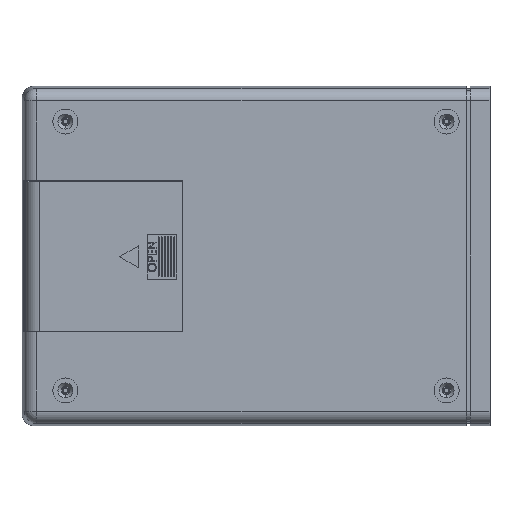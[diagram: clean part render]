
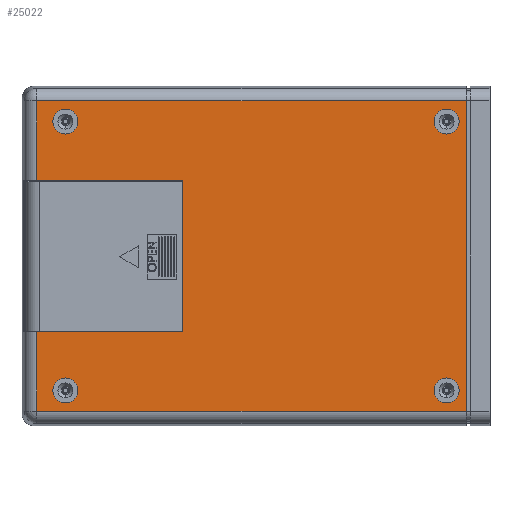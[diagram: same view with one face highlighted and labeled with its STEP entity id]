
A CAD part, front view. The second image highlights one B-rep face of the part: STEP entity #25022.
In plain terms, the highlighted planar face has unit normal (0, -1, 0).
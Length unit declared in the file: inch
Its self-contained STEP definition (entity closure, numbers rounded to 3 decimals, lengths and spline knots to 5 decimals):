
#206 = CARTESIAN_POINT ( 'NONE',  ( 3.35685, -0.895, 2.4758 ) ) ;
#328 = ORIENTED_EDGE ( 'NONE', *, *, #26139, .T. ) ;
#852 = DIRECTION ( 'NONE',  ( 0., 0., 1. ) ) ;
#1041 = DIRECTION ( 'NONE',  ( -1., 0., 0. ) ) ;
#1428 = ORIENTED_EDGE ( 'NONE', *, *, #25020, .F. ) ;
#2011 = CARTESIAN_POINT ( 'NONE',  ( 3.044, -0.895, 2.1475 ) ) ;
#2016 = ORIENTED_EDGE ( 'NONE', *, *, #40101, .T. ) ;
#2099 = LINE ( 'NONE', #44397, #42891 ) ;
#2390 = AXIS2_PLACEMENT_3D ( 'NONE', #17951, #43402, #21625 ) ;
#2541 = EDGE_CURVE ( 'NONE', #19189, #25401, #41344, .T. ) ;
#2794 = CARTESIAN_POINT ( 'NONE',  ( 3.044, -0.895, 2.3475 ) ) ;
#3521 = CIRCLE ( 'NONE', #38110, 0.2 ) ;
#3912 = VERTEX_POINT ( 'NONE', #42333 ) ;
#4108 = EDGE_CURVE ( 'NONE', #35779, #39830, #21803, .T. ) ;
#4142 = ORIENTED_EDGE ( 'NONE', *, *, #21089, .F. ) ;
#4452 = AXIS2_PLACEMENT_3D ( 'NONE', #34780, #12840, #38356 ) ;
#4458 = VECTOR ( 'NONE', #16798, 39.37008 ) ;
#4707 = FACE_BOUND ( 'NONE', #36908, .T. ) ;
#5476 = VERTEX_POINT ( 'NONE', #13540 ) ;
#5659 = DIRECTION ( 'NONE',  ( 0., 0., -1. ) ) ;
#5831 = VECTOR ( 'NONE', #7915, 39.37008 ) ;
#5876 = FACE_BOUND ( 'NONE', #43306, .T. ) ;
#6994 = VERTEX_POINT ( 'NONE', #2794 ) ;
#7239 = DIRECTION ( 'NONE',  ( 0., 0., 1. ) ) ;
#7657 = AXIS2_PLACEMENT_3D ( 'NONE', #43122, #21320, #46726 ) ;
#7915 = DIRECTION ( 'NONE',  ( 0., 0., -1. ) ) ;
#8132 = EDGE_LOOP ( 'NONE', ( #25129, #39936, #4142, #10970, #37767, #16527, #46698, #11580 ) ) ;
#8607 = DIRECTION ( 'NONE',  ( 0., -1., 0. ) ) ;
#8984 = EDGE_CURVE ( 'NONE', #16948, #23804, #14190, .T. ) ;
#9131 = CIRCLE ( 'NONE', #2390, 0.2 ) ;
#10324 = DIRECTION ( 'NONE',  ( 0., 0., -1. ) ) ;
#10437 = ORIENTED_EDGE ( 'NONE', *, *, #40185, .F. ) ;
#10673 = AXIS2_PLACEMENT_3D ( 'NONE', #38883, #16978, #42440 ) ;
#10824 = CARTESIAN_POINT ( 'NONE',  ( -1.175, -0.895, -1.2125 ) ) ;
#10970 = ORIENTED_EDGE ( 'NONE', *, *, #28117, .F. ) ;
#11414 = EDGE_CURVE ( 'NONE', #23804, #39830, #42975, .T. ) ;
#11462 = ORIENTED_EDGE ( 'NONE', *, *, #30341, .F. ) ;
#11580 = ORIENTED_EDGE ( 'NONE', *, *, #31922, .T. ) ;
#11621 = DIRECTION ( 'NONE',  ( 0., 1., 0. ) ) ;
#12108 = DIRECTION ( 'NONE',  ( 0., -1., 0. ) ) ;
#12590 = EDGE_CURVE ( 'NONE', #37806, #25401, #2099, .T. ) ;
#12657 = VECTOR ( 'NONE', #40637, 39.37008 ) ;
#12840 = DIRECTION ( 'NONE',  ( 0., 1., 0. ) ) ;
#13122 = FACE_BOUND ( 'NONE', #17068, .T. ) ;
#13152 = ORIENTED_EDGE ( 'NONE', *, *, #21434, .T. ) ;
#13540 = CARTESIAN_POINT ( 'NONE',  ( -3.044, -0.895, -2.3475 ) ) ;
#13780 = DIRECTION ( 'NONE',  ( 1., 0., 0. ) ) ;
#13836 = VERTEX_POINT ( 'NONE', #22232 ) ;
#14190 = LINE ( 'NONE', #14917, #5831 ) ;
#14917 = CARTESIAN_POINT ( 'NONE',  ( -3.5003, -0.895, -2.6656 ) ) ;
#15446 = CARTESIAN_POINT ( 'NONE',  ( -3.044, -0.895, -1.9475 ) ) ;
#16373 = LINE ( 'NONE', #10824, #24953 ) ;
#16527 = ORIENTED_EDGE ( 'NONE', *, *, #11414, .T. ) ;
#16798 = DIRECTION ( 'NONE',  ( -1., 0., 0. ) ) ;
#16948 = VERTEX_POINT ( 'NONE', #42860 ) ;
#16978 = DIRECTION ( 'NONE',  ( 0., -1., 0. ) ) ;
#17068 = EDGE_LOOP ( 'NONE', ( #328, #2016 ) ) ;
#17951 = CARTESIAN_POINT ( 'NONE',  ( 3.044, -0.895, -2.1475 ) ) ;
#18073 = CIRCLE ( 'NONE', #41444, 0.2 ) ;
#18516 = AXIS2_PLACEMENT_3D ( 'NONE', #30363, #8607, #34086 ) ;
#19189 = VERTEX_POINT ( 'NONE', #30456 ) ;
#19926 = VERTEX_POINT ( 'NONE', #35523 ) ;
#21089 = EDGE_CURVE ( 'NONE', #13836, #37806, #16373, .T. ) ;
#21097 = ORIENTED_EDGE ( 'NONE', *, *, #22145, .T. ) ;
#21273 = CIRCLE ( 'NONE', #24313, 0.2 ) ;
#21320 = DIRECTION ( 'NONE',  ( 0., 1., 0. ) ) ;
#21434 = EDGE_CURVE ( 'NONE', #41718, #5476, #34058, .T. ) ;
#21625 = DIRECTION ( 'NONE',  ( 0., 0., 1. ) ) ;
#21803 = LINE ( 'NONE', #206, #41207 ) ;
#21858 = EDGE_CURVE ( 'NONE', #6994, #39131, #23011, .T. ) ;
#22145 = EDGE_CURVE ( 'NONE', #5476, #41718, #21273, .T. ) ;
#22232 = CARTESIAN_POINT ( 'NONE',  ( -1.175, -0.895, -1.2125 ) ) ;
#22262 = LINE ( 'NONE', #33447, #12657 ) ;
#22454 = DIRECTION ( 'NONE',  ( 0., 1., 0. ) ) ;
#22761 = FACE_OUTER_BOUND ( 'NONE', #8132, .T. ) ;
#23011 = CIRCLE ( 'NONE', #10673, 0.2 ) ;
#23215 = CIRCLE ( 'NONE', #18516, 0.2 ) ;
#23804 = VERTEX_POINT ( 'NONE', #42134 ) ;
#24313 = AXIS2_PLACEMENT_3D ( 'NONE', #33521, #11621, #37096 ) ;
#24546 = CARTESIAN_POINT ( 'NONE',  ( -3.044, -0.895, 1.9475 ) ) ;
#24953 = VECTOR ( 'NONE', #7239, 39.37008 ) ;
#25020 = EDGE_CURVE ( 'NONE', #39131, #6994, #25053, .T. ) ;
#25022 = ADVANCED_FACE ( 'NONE', ( #22761, #5876, #4707, #32597, #13122 ), #45362, .F. ) ;
#25053 = CIRCLE ( 'NONE', #39444, 0.2 ) ;
#25070 = CARTESIAN_POINT ( 'NONE',  ( 3.35685, -0.895, -2.4758 ) ) ;
#25129 = ORIENTED_EDGE ( 'NONE', *, *, #2541, .T. ) ;
#25401 = VERTEX_POINT ( 'NONE', #40953 ) ;
#25463 = DIRECTION ( 'NONE',  ( 0., 0., -1. ) ) ;
#25668 = EDGE_LOOP ( 'NONE', ( #1428, #43837 ) ) ;
#26139 = EDGE_CURVE ( 'NONE', #19926, #32234, #9131, .T. ) ;
#27309 = DIRECTION ( 'NONE',  ( 0., -1., 0. ) ) ;
#28117 = EDGE_CURVE ( 'NONE', #16948, #13836, #22262, .T. ) ;
#30086 = CARTESIAN_POINT ( 'NONE',  ( 3.044, -0.895, -1.9475 ) ) ;
#30341 = EDGE_CURVE ( 'NONE', #35337, #3912, #3521, .T. ) ;
#30363 = CARTESIAN_POINT ( 'NONE',  ( -3.044, -0.895, 2.1475 ) ) ;
#30456 = CARTESIAN_POINT ( 'NONE',  ( -3.5003, -0.895, 2.4758 ) ) ;
#31336 = CARTESIAN_POINT ( 'NONE',  ( 3.044, -0.895, 1.9475 ) ) ;
#31901 = CARTESIAN_POINT ( 'NONE',  ( 3.737, -0.895, -2.4758 ) ) ;
#31922 = EDGE_CURVE ( 'NONE', #35779, #19189, #42999, .T. ) ;
#32234 = VERTEX_POINT ( 'NONE', #30086 ) ;
#32597 = FACE_BOUND ( 'NONE', #25668, .T. ) ;
#33447 = CARTESIAN_POINT ( 'NONE',  ( -1.175, -0.895, -1.2125 ) ) ;
#33481 = VECTOR ( 'NONE', #13780, 39.37008 ) ;
#33521 = CARTESIAN_POINT ( 'NONE',  ( -3.044, -0.895, -2.1475 ) ) ;
#34017 = CARTESIAN_POINT ( 'NONE',  ( -3.044, -0.895, 2.1475 ) ) ;
#34058 = CIRCLE ( 'NONE', #7657, 0.2 ) ;
#34086 = DIRECTION ( 'NONE',  ( 0., 0., -1. ) ) ;
#34780 = CARTESIAN_POINT ( 'NONE',  ( -3.737, -0.895, 2.7125 ) ) ;
#35337 = VERTEX_POINT ( 'NONE', #24546 ) ;
#35523 = CARTESIAN_POINT ( 'NONE',  ( 3.044, -0.895, -2.3475 ) ) ;
#35779 = VERTEX_POINT ( 'NONE', #46691 ) ;
#36908 = EDGE_LOOP ( 'NONE', ( #21097, #13152 ) ) ;
#37096 = DIRECTION ( 'NONE',  ( 0., 0., 1. ) ) ;
#37588 = DIRECTION ( 'NONE',  ( 0., 0., -1. ) ) ;
#37767 = ORIENTED_EDGE ( 'NONE', *, *, #8984, .T. ) ;
#37806 = VERTEX_POINT ( 'NONE', #37914 ) ;
#37914 = CARTESIAN_POINT ( 'NONE',  ( -1.175, -0.895, 1.2125 ) ) ;
#38110 = AXIS2_PLACEMENT_3D ( 'NONE', #34017, #12108, #37588 ) ;
#38356 = DIRECTION ( 'NONE',  ( 0., 0., 1. ) ) ;
#38883 = CARTESIAN_POINT ( 'NONE',  ( 3.044, -0.895, 2.1475 ) ) ;
#39131 = VERTEX_POINT ( 'NONE', #31336 ) ;
#39444 = AXIS2_PLACEMENT_3D ( 'NONE', #2011, #27309, #5659 ) ;
#39830 = VERTEX_POINT ( 'NONE', #25070 ) ;
#39936 = ORIENTED_EDGE ( 'NONE', *, *, #12590, .F. ) ;
#40101 = EDGE_CURVE ( 'NONE', #32234, #19926, #18073, .T. ) ;
#40185 = EDGE_CURVE ( 'NONE', #3912, #35337, #23215, .T. ) ;
#40221 = VECTOR ( 'NONE', #10324, 39.37008 ) ;
#40637 = DIRECTION ( 'NONE',  ( 1., 0., 0. ) ) ;
#40953 = CARTESIAN_POINT ( 'NONE',  ( -3.5003, -0.895, 1.2125 ) ) ;
#41207 = VECTOR ( 'NONE', #25463, 39.37008 ) ;
#41344 = LINE ( 'NONE', #42806, #40221 ) ;
#41444 = AXIS2_PLACEMENT_3D ( 'NONE', #44211, #22454, #852 ) ;
#41718 = VERTEX_POINT ( 'NONE', #15446 ) ;
#42134 = CARTESIAN_POINT ( 'NONE',  ( -3.5003, -0.895, -2.4758 ) ) ;
#42260 = CARTESIAN_POINT ( 'NONE',  ( -3.6901, -0.895, 2.4758 ) ) ;
#42333 = CARTESIAN_POINT ( 'NONE',  ( -3.044, -0.895, 2.3475 ) ) ;
#42440 = DIRECTION ( 'NONE',  ( 0., 0., -1. ) ) ;
#42806 = CARTESIAN_POINT ( 'NONE',  ( -3.5003, -0.895, -2.6656 ) ) ;
#42860 = CARTESIAN_POINT ( 'NONE',  ( -3.5003, -0.895, -1.2125 ) ) ;
#42891 = VECTOR ( 'NONE', #1041, 39.37008 ) ;
#42975 = LINE ( 'NONE', #31901, #33481 ) ;
#42999 = LINE ( 'NONE', #42260, #4458 ) ;
#43122 = CARTESIAN_POINT ( 'NONE',  ( -3.044, -0.895, -2.1475 ) ) ;
#43306 = EDGE_LOOP ( 'NONE', ( #11462, #10437 ) ) ;
#43402 = DIRECTION ( 'NONE',  ( 0., 1., 0. ) ) ;
#43837 = ORIENTED_EDGE ( 'NONE', *, *, #21858, .F. ) ;
#44211 = CARTESIAN_POINT ( 'NONE',  ( 3.044, -0.895, -2.1475 ) ) ;
#44397 = CARTESIAN_POINT ( 'NONE',  ( -1.175, -0.895, 1.2125 ) ) ;
#45362 = PLANE ( 'NONE',  #4452 ) ;
#46691 = CARTESIAN_POINT ( 'NONE',  ( 3.35685, -0.895, 2.4758 ) ) ;
#46698 = ORIENTED_EDGE ( 'NONE', *, *, #4108, .F. ) ;
#46726 = DIRECTION ( 'NONE',  ( 0., 0., 1. ) ) ;
